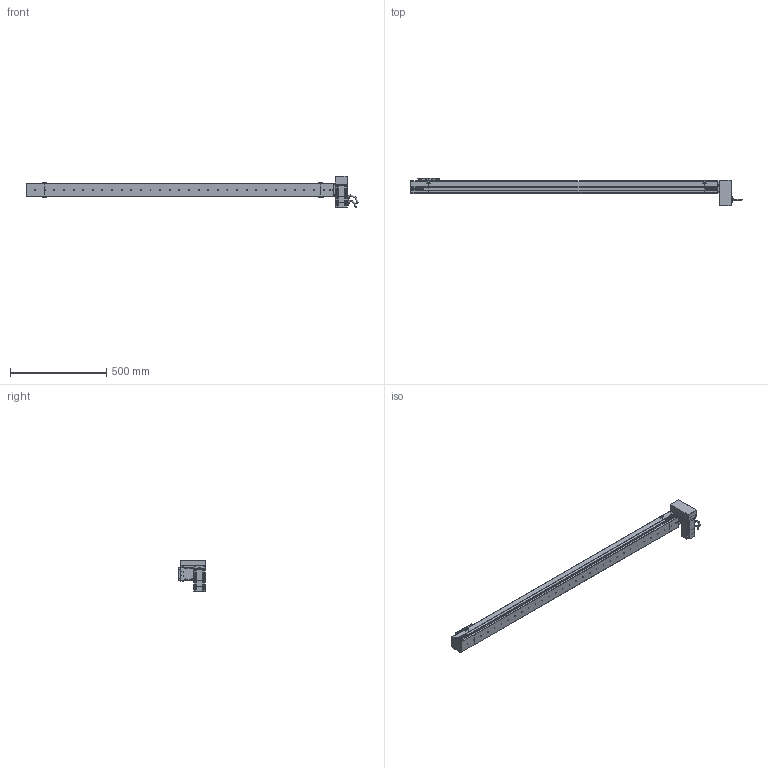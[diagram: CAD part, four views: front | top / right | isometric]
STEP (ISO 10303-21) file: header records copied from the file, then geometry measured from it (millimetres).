
FILE_DESCRIPTION (( 'STEP AP214' ), '1' );
FILE_NAME ('S07 CBN LU S1500.STEP', '2010-06-29T10:52:39', ( 'Conseil Régional Haute-Normandie' ), ( 'Conseil Régional Haute-Normandie' ), 'SwSTEP 2.0', 'SolidWorks 2010', '' );
FILE_SCHEMA (( 'AUTOMOTIVE_DESIGN' ));
Length unit declared in the file: millimetre
Products named in the file (31): Cache Support Moteur LU_Default; Chariot S07_Default; vis M5 L15_Default; plaque de serrage Tail_Default; Couvercle Tail_Default; Corp Tail_Default; Couvercle LU_Default; Plaque de bout Tail_Default; Support Moteur LU_Default; Tail S07 Tail_Default; Rondelle de Serrage LU_Default; Corp S07 S1500_Default; P1_Default; 60BLDC90A-640_Default; P2 90A_Default; Couvercle S07 S1500_Default; VisM3_Default; Conecteur2 60BLDC_Default; P3 90A_Default; Conecteur 60BLDC_Default; Axe 60BLDC_Default; P4_Default; support chariot_Default; vis M5 L8_Default; Head LU_Default; S07 CBN LU S1500; plaque de serrage LU_Default; chariot_Default; Plaque de bout LU_Default; Corp LU_Default
Assembly tree (71 placements, depth 4):
  S07 CBN LU S1500
    Chariot S07_Default
      vis M5 L8_Default  x8
      support chariot_Default
      chariot_Default
    Head LU_Default
      Rondelle de Serrage LU_Default  x3
      vis M5 L15_Default  x16
      Couvercle LU_Default
      Plaque de bout LU_Default
      60BLDC90A-640_Default
        VisM3_Default  x12
        P2 90A_Default
        Axe 60BLDC_Default
        Conecteur2 60BLDC_Default
        Conecteur 60BLDC_Default
        P1_Default
        P3 90A_Default
        P4_Default
      Corp LU_Default
      plaque de serrage LU_Default
      Cache Support Moteur LU_Default
      Support Moteur LU_Default
    Tail S07 Tail_Default
      plaque de serrage Tail_Default
      vis M5 L15_Default  x6
      Plaque de bout Tail_Default
      Couvercle Tail_Default
      Corp Tail_Default
    Corp S07 S1500_Default
      Couvercle S07 S1500_Default
      Corp S07 S1500_Default
Bounding box: 1725.7 x 142 x 162 mm (x, y, z)
Volume: 8431517.7 mm3; surface area: 972460.3 mm2
Topology: 108 solids, 108 shells, 3940 faces, 9686 edges, 6236 vertices
Faces by surface type: plane 2266, bspline 756, cylinder 707, torus 112, cone 95, sphere 4
Entity records: 154633 total; most frequent: CARTESIAN_POINT 79799, ORIENTED_EDGE 14892, DIRECTION 11219, EDGE_CURVE 7446, VERTEX_POINT 4921, VECTOR 4805, LINE 4805, EDGE_LOOP 3213
